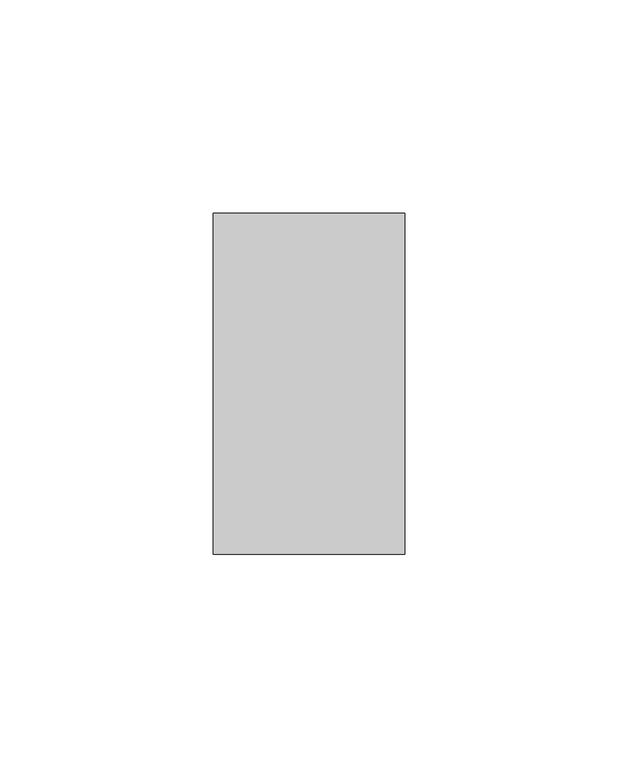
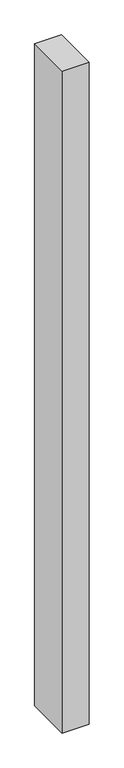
"""IFC4 building model written with IfcOpenShell, lengths in millimetres: member geometry, Obdélníková příčel : VERTI ELEMENT - vertikální."""

from ifc_helpers import new_model, si_unit, frame, origin, place, context, project, spatial, polyline, outline, extrude, source, transform, mapped, element, save


def member_acb8eb19(model_context):
    return source(origin(), model_context, "Body", "SweptSolid", [
        extrude(outline(polyline([(0.0, 40.0), (0.0, -40.0), (-45.0, -40.0), (-45.0, 40.0), (0.0, 40.0)])), frame((0.0, 0.0, -1177.5), z_axis=(0.0, 0.0, 1.0), x_axis=(1.0, 0.0, 0.0)), (0.0, 0.0, 1.0), 1177.5),
    ])


if __name__ == "__main__":
    model = new_model("IFC4")
    model_context = context("Model", 3, world=origin())
    ifc_project = project(units=[si_unit("LENGTHUNIT", "METRE", prefix="MILLI")], contexts=[model_context])
    site = spatial("IfcSite", under=ifc_project)
    building = spatial("IfcBuilding", under=site)
    placement = place(None, origin())
    member_shape = member_acb8eb19(model_context)
    element("IfcMember", 1, ObjectType="Obdélníková příčel : VERTI ELEMENT - vertikální", at=placement, inside=building, context=model_context, shape_type="MappedRepresentation", body=[
        mapped(member_shape, transform((0.0, 0.0, 0.0), x_axis=(1.0, 0.0, 0.0), y_axis=(0.0, 1.0, 0.0), z_axis=(0.0, 0.0, 1.0))),
    ])
    save(model, "model.ifc")
